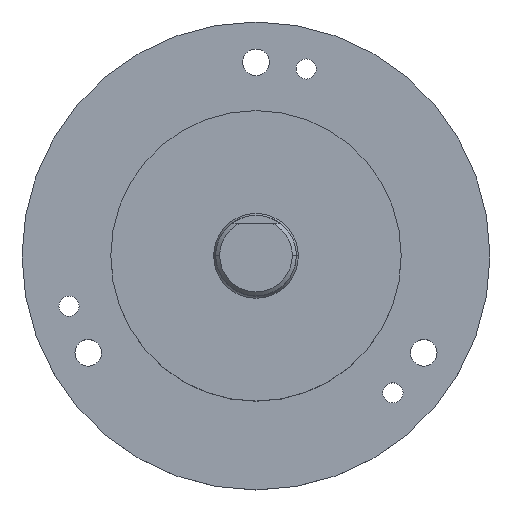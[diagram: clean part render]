
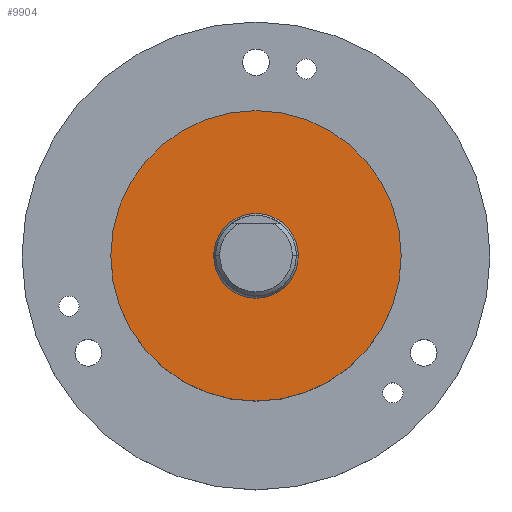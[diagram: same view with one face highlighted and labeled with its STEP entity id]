
A CAD part, top view. The second image highlights one B-rep face of the part: STEP entity #9904.
In plain terms, the highlighted planar face has unit normal (0, 0, 1).
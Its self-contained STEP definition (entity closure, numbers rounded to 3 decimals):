
#7 = DIRECTION ( 'NONE',  ( 0., 0., 1. ) ) ;
#1148 = VERTEX_POINT ( 'NONE', #9290 ) ;
#1296 = DIRECTION ( 'NONE',  ( 0., 0., 1. ) ) ;
#1567 = VERTEX_POINT ( 'NONE', #5603 ) ;
#1602 = CIRCLE ( 'NONE', #11353, 5.25 ) ;
#1668 = CARTESIAN_POINT ( 'NONE',  ( 0., 0., 10. ) ) ;
#2310 = EDGE_CURVE ( 'NONE', #1567, #1148, #9406, .T. ) ;
#2636 = ORIENTED_EDGE ( 'NONE', *, *, #10065, .F. ) ;
#2953 = EDGE_CURVE ( 'NONE', #7877, #10081, #5377, .T. ) ;
#3647 = PLANE ( 'NONE',  #7872 ) ;
#4220 = EDGE_LOOP ( 'NONE', ( #11592, #2636 ) ) ;
#4619 = DIRECTION ( 'NONE',  ( 0., 0., -1. ) ) ;
#4996 = CARTESIAN_POINT ( 'NONE',  ( 0., 0., 10. ) ) ;
#5068 = CIRCLE ( 'NONE', #11064, 18. ) ;
#5377 = CIRCLE ( 'NONE', #7844, 18. ) ;
#5603 = CARTESIAN_POINT ( 'NONE',  ( -5.25, 0., 10. ) ) ;
#5712 = CARTESIAN_POINT ( 'NONE',  ( 18., 0., 10. ) ) ;
#5933 = AXIS2_PLACEMENT_3D ( 'NONE', #12309, #11154, #9202 ) ;
#6554 = ORIENTED_EDGE ( 'NONE', *, *, #2953, .T. ) ;
#6561 = FACE_BOUND ( 'NONE', #4220, .T. ) ;
#6638 = DIRECTION ( 'NONE',  ( 0., 0., 1. ) ) ;
#6730 = DIRECTION ( 'NONE',  ( 1., 0., 0. ) ) ;
#6884 = CARTESIAN_POINT ( 'NONE',  ( -18., 0., 10. ) ) ;
#7111 = DIRECTION ( 'NONE',  ( 1., 0., 0. ) ) ;
#7769 = EDGE_CURVE ( 'NONE', #10081, #7877, #5068, .T. ) ;
#7844 = AXIS2_PLACEMENT_3D ( 'NONE', #8059, #1296, #7111 ) ;
#7872 = AXIS2_PLACEMENT_3D ( 'NONE', #8602, #4619, #8517 ) ;
#7877 = VERTEX_POINT ( 'NONE', #5712 ) ;
#8059 = CARTESIAN_POINT ( 'NONE',  ( 0., 0., 10. ) ) ;
#8517 = DIRECTION ( 'NONE',  ( -1., 0., 0. ) ) ;
#8602 = CARTESIAN_POINT ( 'NONE',  ( 0., 18., 10. ) ) ;
#8962 = EDGE_LOOP ( 'NONE', ( #6554, #12181 ) ) ;
#9202 = DIRECTION ( 'NONE',  ( 1., 0., 0. ) ) ;
#9290 = CARTESIAN_POINT ( 'NONE',  ( 5.25, 0., 10. ) ) ;
#9406 = CIRCLE ( 'NONE', #5933, 5.25 ) ;
#9904 = ADVANCED_FACE ( 'NONE', ( #6561, #12134 ), #3647, .F. ) ;
#10065 = EDGE_CURVE ( 'NONE', #1148, #1567, #1602, .T. ) ;
#10081 = VERTEX_POINT ( 'NONE', #6884 ) ;
#11064 = AXIS2_PLACEMENT_3D ( 'NONE', #1668, #6638, #6730 ) ;
#11154 = DIRECTION ( 'NONE',  ( 0., 0., 1. ) ) ;
#11353 = AXIS2_PLACEMENT_3D ( 'NONE', #4996, #7, #11890 ) ;
#11592 = ORIENTED_EDGE ( 'NONE', *, *, #2310, .F. ) ;
#11890 = DIRECTION ( 'NONE',  ( 1., 0., 0. ) ) ;
#12134 = FACE_OUTER_BOUND ( 'NONE', #8962, .T. ) ;
#12181 = ORIENTED_EDGE ( 'NONE', *, *, #7769, .T. ) ;
#12309 = CARTESIAN_POINT ( 'NONE',  ( 0., 0., 10. ) ) ;
